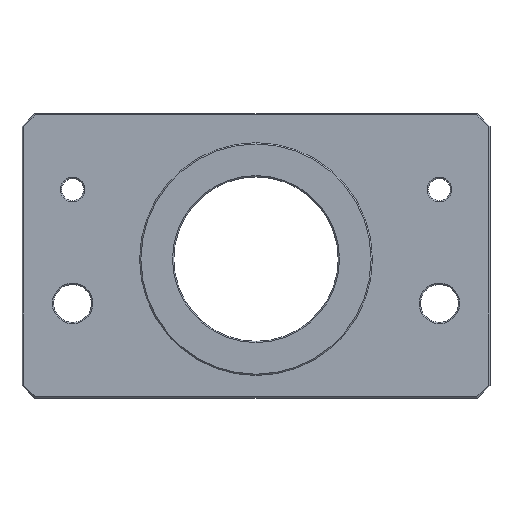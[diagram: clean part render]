
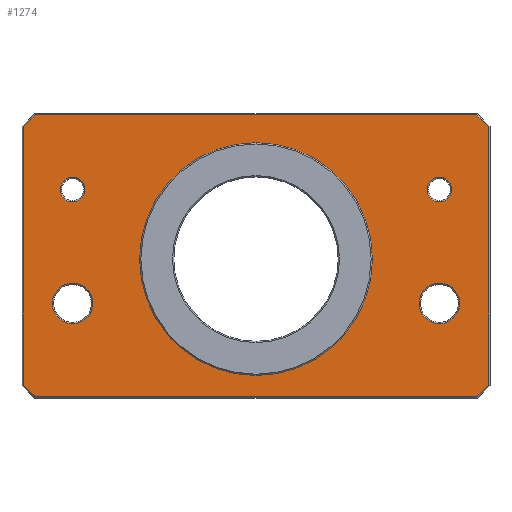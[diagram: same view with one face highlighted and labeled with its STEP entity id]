
A CAD part, top view. The second image highlights one B-rep face of the part: STEP entity #1274.
In plain terms, the highlighted planar face has unit normal (0, 0, 1).
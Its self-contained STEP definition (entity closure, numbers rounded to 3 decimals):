
#197=CARTESIAN_POINT('',(0.,0.,10.));
#198=DIRECTION('',(0.,0.,1.));
#199=DIRECTION('',(1.,0.,0.));
#200=AXIS2_PLACEMENT_3D('',#197,#198,#199);
#202=CARTESIAN_POINT('',(0.,0.,10.));
#203=DIRECTION('',(0.,0.,1.));
#204=DIRECTION('',(-1.,0.,0.));
#205=AXIS2_PLACEMENT_3D('',#202,#203,#204);
#207=CARTESIAN_POINT('',(29.,11.,10.));
#208=DIRECTION('',(0.,0.,-1.));
#209=DIRECTION('',(-1.,0.,0.));
#210=AXIS2_PLACEMENT_3D('',#207,#208,#209);
#212=CARTESIAN_POINT('',(29.,11.,10.));
#213=DIRECTION('',(0.,0.,-1.));
#214=DIRECTION('',(1.,0.,0.));
#215=AXIS2_PLACEMENT_3D('',#212,#213,#214);
#217=CARTESIAN_POINT('',(29.,-7.,10.));
#218=DIRECTION('',(0.,0.,-1.));
#219=DIRECTION('',(-1.,0.,0.));
#220=AXIS2_PLACEMENT_3D('',#217,#218,#219);
#222=CARTESIAN_POINT('',(29.,-7.,10.));
#223=DIRECTION('',(0.,0.,-1.));
#224=DIRECTION('',(1.,0.,0.));
#225=AXIS2_PLACEMENT_3D('',#222,#223,#224);
#227=CARTESIAN_POINT('',(-29.,-7.,10.));
#228=DIRECTION('',(0.,0.,-1.));
#229=DIRECTION('',(1.,0.,0.));
#230=AXIS2_PLACEMENT_3D('',#227,#228,#229);
#232=CARTESIAN_POINT('',(-29.,-7.,10.));
#233=DIRECTION('',(0.,0.,-1.));
#234=DIRECTION('',(-1.,0.,0.));
#235=AXIS2_PLACEMENT_3D('',#232,#233,#234);
#237=CARTESIAN_POINT('',(-29.,11.,10.));
#238=DIRECTION('',(0.,0.,-1.));
#239=DIRECTION('',(-1.,0.,0.));
#240=AXIS2_PLACEMENT_3D('',#237,#238,#239);
#242=CARTESIAN_POINT('',(-29.,11.,10.));
#243=DIRECTION('',(0.,0.,-1.));
#244=DIRECTION('',(1.,0.,0.));
#245=AXIS2_PLACEMENT_3D('',#242,#243,#244);
#247=DIRECTION('',(0.707,-0.707,0.));
#248=VECTOR('',#247,2.663);
#249=CARTESIAN_POINT('',(-36.8,-19.917,10.));
#250=LINE('',#249,#248);
#251=DIRECTION('',(0.,-1.,0.));
#252=VECTOR('',#251,40.834);
#253=CARTESIAN_POINT('',(-36.8,20.917,10.));
#254=LINE('',#253,#252);
#255=DIRECTION('',(-0.707,-0.707,0.));
#256=VECTOR('',#255,2.663);
#257=CARTESIAN_POINT('',(-34.917,22.8,10.));
#258=LINE('',#257,#256);
#259=DIRECTION('',(-1.,0.,0.));
#260=VECTOR('',#259,69.834);
#261=CARTESIAN_POINT('',(34.917,22.8,10.));
#262=LINE('',#261,#260);
#263=DIRECTION('',(-0.707,0.707,0.));
#264=VECTOR('',#263,2.663);
#265=CARTESIAN_POINT('',(36.8,20.917,10.));
#266=LINE('',#265,#264);
#267=DIRECTION('',(0.,1.,0.));
#268=VECTOR('',#267,40.834);
#269=CARTESIAN_POINT('',(36.8,-19.917,10.));
#270=LINE('',#269,#268);
#271=DIRECTION('',(0.707,0.707,0.));
#272=VECTOR('',#271,2.663);
#273=CARTESIAN_POINT('',(34.917,-21.8,10.));
#274=LINE('',#273,#272);
#275=DIRECTION('',(1.,0.,0.));
#276=VECTOR('',#275,69.834);
#277=CARTESIAN_POINT('',(-34.917,-21.8,10.));
#278=LINE('',#277,#276);
#783=CARTESIAN_POINT('',(18.4,0.,10.));
#784=CARTESIAN_POINT('',(-18.4,0.,10.));
#785=VERTEX_POINT('',#783);
#786=VERTEX_POINT('',#784);
#811=CARTESIAN_POINT('',(27.05,11.,10.));
#812=CARTESIAN_POINT('',(30.95,11.,10.));
#813=VERTEX_POINT('',#811);
#814=VERTEX_POINT('',#812);
#819=CARTESIAN_POINT('',(25.8,-7.,10.));
#820=CARTESIAN_POINT('',(32.2,-7.,10.));
#821=VERTEX_POINT('',#819);
#822=VERTEX_POINT('',#820);
#827=CARTESIAN_POINT('',(-25.8,-7.,10.));
#828=CARTESIAN_POINT('',(-32.2,-7.,10.));
#829=VERTEX_POINT('',#827);
#830=VERTEX_POINT('',#828);
#835=CARTESIAN_POINT('',(-30.95,11.,10.));
#836=CARTESIAN_POINT('',(-27.05,11.,10.));
#837=VERTEX_POINT('',#835);
#838=VERTEX_POINT('',#836);
#951=CARTESIAN_POINT('',(-36.8,-19.917,10.));
#952=CARTESIAN_POINT('',(-34.917,-21.8,10.));
#953=VERTEX_POINT('',#951);
#954=VERTEX_POINT('',#952);
#957=CARTESIAN_POINT('',(34.917,-21.8,10.));
#958=VERTEX_POINT('',#957);
#961=CARTESIAN_POINT('',(36.8,-19.917,10.));
#962=VERTEX_POINT('',#961);
#965=CARTESIAN_POINT('',(36.8,20.917,10.));
#966=VERTEX_POINT('',#965);
#969=CARTESIAN_POINT('',(34.917,22.8,10.));
#970=VERTEX_POINT('',#969);
#973=CARTESIAN_POINT('',(-34.917,22.8,10.));
#974=VERTEX_POINT('',#973);
#975=CARTESIAN_POINT('',(-36.8,20.917,10.));
#976=VERTEX_POINT('',#975);
#1222=CARTESIAN_POINT('',(0.,0.,10.));
#1223=DIRECTION('',(0.,0.,1.));
#1224=DIRECTION('',(1.,0.,0.));
#1225=AXIS2_PLACEMENT_3D('',#1222,#1223,#1224);
#1226=PLANE('',#1225);
#1228=ORIENTED_EDGE('',*,*,#1227,.F.);
#1230=ORIENTED_EDGE('',*,*,#1229,.F.);
#1232=ORIENTED_EDGE('',*,*,#1231,.F.);
#1234=ORIENTED_EDGE('',*,*,#1233,.F.);
#1236=ORIENTED_EDGE('',*,*,#1235,.F.);
#1238=ORIENTED_EDGE('',*,*,#1237,.F.);
#1240=ORIENTED_EDGE('',*,*,#1239,.F.);
#1242=ORIENTED_EDGE('',*,*,#1241,.F.);
#1243=EDGE_LOOP('',(#1228,#1230,#1232,#1234,#1236,#1238,#1240,#1242));
#1244=FACE_OUTER_BOUND('',#1243,.F.);
#1246=ORIENTED_EDGE('',*,*,#1245,.F.);
#1248=ORIENTED_EDGE('',*,*,#1247,.F.);
#1249=EDGE_LOOP('',(#1246,#1248));
#1250=FACE_BOUND('',#1249,.F.);
#1252=ORIENTED_EDGE('',*,*,#1251,.F.);
#1253=ORIENTED_EDGE('',*,*,#1212,.F.);
#1254=EDGE_LOOP('',(#1252,#1253));
#1255=FACE_BOUND('',#1254,.F.);
#1257=ORIENTED_EDGE('',*,*,#1256,.F.);
#1259=ORIENTED_EDGE('',*,*,#1258,.F.);
#1260=EDGE_LOOP('',(#1257,#1259));
#1261=FACE_BOUND('',#1260,.F.);
#1263=ORIENTED_EDGE('',*,*,#1262,.F.);
#1265=ORIENTED_EDGE('',*,*,#1264,.F.);
#1266=EDGE_LOOP('',(#1263,#1265));
#1267=FACE_BOUND('',#1266,.F.);
#1269=ORIENTED_EDGE('',*,*,#1268,.T.);
#1271=ORIENTED_EDGE('',*,*,#1270,.T.);
#1272=EDGE_LOOP('',(#1269,#1271));
#1273=FACE_BOUND('',#1272,.F.);
#201=CIRCLE('',#200,18.4);
#206=CIRCLE('',#205,18.4);
#211=CIRCLE('',#210,1.95);
#216=CIRCLE('',#215,1.95);
#221=CIRCLE('',#220,3.2);
#226=CIRCLE('',#225,3.2);
#231=CIRCLE('',#230,3.2);
#236=CIRCLE('',#235,3.2);
#241=CIRCLE('',#240,1.95);
#246=CIRCLE('',#245,1.95);
#1212=EDGE_CURVE('',#822,#821,#226,.T.);
#1227=EDGE_CURVE('',#953,#954,#250,.T.);
#1229=EDGE_CURVE('',#976,#953,#254,.T.);
#1231=EDGE_CURVE('',#974,#976,#258,.T.);
#1233=EDGE_CURVE('',#970,#974,#262,.T.);
#1235=EDGE_CURVE('',#966,#970,#266,.T.);
#1237=EDGE_CURVE('',#962,#966,#270,.T.);
#1239=EDGE_CURVE('',#958,#962,#274,.T.);
#1241=EDGE_CURVE('',#954,#958,#278,.T.);
#1245=EDGE_CURVE('',#813,#814,#211,.T.);
#1247=EDGE_CURVE('',#814,#813,#216,.T.);
#1251=EDGE_CURVE('',#821,#822,#221,.T.);
#1256=EDGE_CURVE('',#829,#830,#231,.T.);
#1258=EDGE_CURVE('',#830,#829,#236,.T.);
#1262=EDGE_CURVE('',#837,#838,#241,.T.);
#1264=EDGE_CURVE('',#838,#837,#246,.T.);
#1268=EDGE_CURVE('',#785,#786,#201,.T.);
#1270=EDGE_CURVE('',#786,#785,#206,.T.);
#1274=ADVANCED_FACE('',(#1244,#1250,#1255,#1261,#1267,#1273),#1226,.T.);
